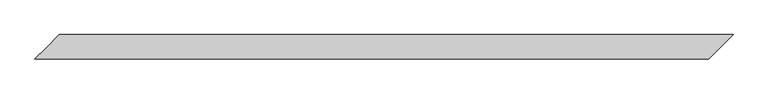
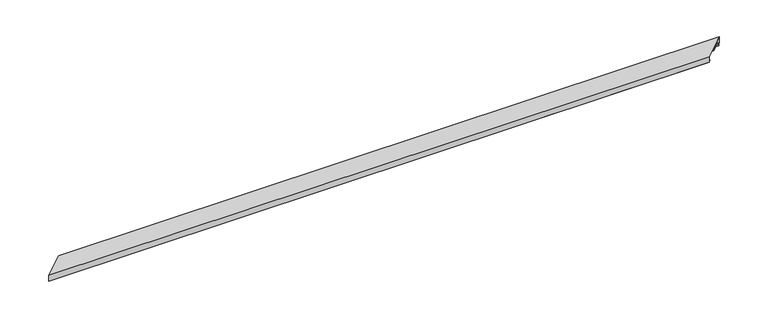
"""IFC4 building model written with IfcOpenShell, lengths in millimetres: proxy geometry, АК5_1 Парапет : АК5_1 Парапет."""

from ifc_helpers import new_model, si_unit, origin, place, context, project, spatial, faceted_brep, source, transform, mapped, element, save


def generic_models_881d6d34(model_context):
    return source(origin(), model_context, "Body", "Brep", [
        faceted_brep([(-150.0, -150.0, 62.265966), (-150.0, -150.0, -20.4), (8850.0046673, -150.0, -20.4), (8850.0046673, -150.0, 62.265966), (177.1, 177.1, 33.6484242), (0.0, 0.0, 49.1426665), (9000.0046673, 0.0, 49.1426665), (9177.1046673, 177.1, 33.6484242), (177.1, 177.1, -51.4916897), (9177.1046673, 177.1, -51.4916897), (162.9578644, 162.9578644, -37.3495541), (9162.9625316, 162.9578644, -37.3495541), (162.9578644, 162.9578644, -77.3495541), (9162.9625316, 162.9578644, -77.3495541), (160.0, 160.0, -77.3495541), (9160.0046673, 160.0, -77.3495541), (160.0, 160.0, -57.3495541), (9160.0046673, 160.0, -57.3495541), (161.0, 161.0, -57.3495541), (9161.0046673, 161.0, -57.3495541), (161.0, 161.0, -76.3495541), (9161.0046673, 161.0, -76.3495541), (161.9578644, 161.9578644, -76.3495541), (9161.9625316, 161.9578644, -76.3495541), (161.9578644, 161.9578644, -34.9353406), (9161.9625316, 161.9578644, -34.9353406), (176.1, 176.1, -49.0774762), (9176.1046673, 176.1, -49.0774762), (176.1, 176.1, 32.732093), (9176.1046673, 176.1, 32.732093), (0.0, 0.0, 48.1388467), (9000.0046673, 0.0, 48.1388467), (8851.0046673, -149.0, 61.1746575), (-149.0, -149.0, 61.1746575), (-149.0, -149.0, -17.9857864), (8851.0046673, -149.0, -17.9857864), (-133.0294373, -133.0294373, -2.0152237), (8866.97523, -133.0294373, -2.0152237), (-132.3223305, -132.3223305, -2.7223305), (8867.6823368, -132.3223305, -2.7223305)], [[[0, 1, 2, 3]], [[4, 5, 0, 3, 6, 7]], [[8, 4, 7, 9]], [[10, 8, 9, 11]], [[12, 10, 11, 13]], [[14, 12, 13, 15]], [[16, 14, 15, 17]], [[18, 16, 17, 19]], [[20, 18, 19, 21]], [[22, 20, 21, 23]], [[24, 22, 23, 25]], [[26, 24, 25, 27]], [[28, 26, 27, 29]], [[30, 28, 29, 31, 32, 33]], [[34, 33, 32, 35]], [[36, 34, 35, 37]], [[38, 36, 37, 39]], [[1, 38, 39, 2]], [[30, 5, 4, 8, 10, 12, 14, 16, 18, 20, 22, 24, 26, 28]], [[5, 30, 33, 34, 36, 38, 1, 0]], [[6, 31, 29, 27, 25, 23, 21, 19, 17, 15, 13, 11, 9, 7]], [[31, 6, 3, 2, 39, 37, 35, 32]]]),
        faceted_brep([(-148.0, -148.0, -12.5), (-146.0, -146.0, -12.5), (8854.0046673, -146.0, -12.5), (8852.0046673, -148.0, -12.5), (-148.0, -148.0, 60.083349), (8852.0046673, -148.0, 60.083349), (1.5433638, 1.5433638, 47.0), (0.0, 0.0, 47.1350268), (9000.0046673, 0.0, 47.1350268), (9001.548031, 1.5433638, 47.0), (1.5433638, 1.5433638, 4.0), (9001.548031, 1.5433638, 4.0), (67.5433638, 67.5433638, 4.0), (9067.548031, 67.5433638, 4.0), (67.5433638, 67.5433638, 41.2257482), (9067.548031, 67.5433638, 41.2257482), (114.5464367, 114.5464367, 37.1135122), (9114.5511039, 114.5464367, 37.1135122), (114.3721252, 114.3721252, 35.1211228), (9114.3767924, 114.3721252, 35.1211228), (69.5433638, 69.5433638, 39.0431312), (9069.548031, 69.5433638, 39.0431312), (69.5433638, 69.5433638, 2.0), (9069.548031, 69.5433638, 2.0), (0.0, 0.0, 2.0), (9000.0046673, 0.0, 2.0), (8999.548031, -0.4566362, 2.0), (-0.4566362, -0.4566362, 2.0), (-0.4566362, -0.4566362, 45.1673377), (8999.548031, -0.4566362, 45.1673377), (-146.0, -146.0, 57.900732), (8854.0046673, -146.0, 57.900732)], [[[0, 1, 2, 3]], [[4, 0, 3, 5]], [[6, 7, 4, 5, 8, 9]], [[10, 6, 9, 11]], [[12, 10, 11, 13]], [[14, 12, 13, 15]], [[16, 14, 15, 17]], [[18, 16, 17, 19]], [[20, 18, 19, 21]], [[22, 20, 21, 23]], [[24, 22, 23, 25, 26, 27]], [[28, 27, 26, 29]], [[30, 28, 29, 31]], [[1, 30, 31, 2]], [[24, 7, 6, 10, 12, 14, 16, 18, 20, 22]], [[7, 24, 27, 28, 30, 1, 0, 4]], [[8, 25, 23, 21, 19, 17, 15, 13, 11, 9]], [[25, 8, 5, 3, 2, 31, 29, 26]]]),
    ])


if __name__ == "__main__":
    model = new_model("IFC4")
    model_context = context("Model", 3, world=origin())
    ifc_project = project(units=[si_unit("LENGTHUNIT", "METRE", prefix="MILLI")], contexts=[model_context])
    site = spatial("IfcSite", under=ifc_project)
    building = spatial("IfcBuilding", under=site)
    placement = place(None, origin())
    generic_models_shape = generic_models_881d6d34(model_context)
    element("IfcBuildingElementProxy", 1, Name="АК5_1 Парапет : АК5_1 Парапет", ObjectType="АК5_1 Парапет : АК5_1 Парапет", at=placement, inside=building, context=model_context, shape_type="MappedRepresentation", body=[
        mapped(generic_models_shape, transform((0.0, 0.0, 0.0), x_axis=(1.0, 0.0, 0.0), y_axis=(0.0, 1.0, 0.0), z_axis=(0.0, 0.0, 1.0))),
    ])
    save(model, "model.ifc")
